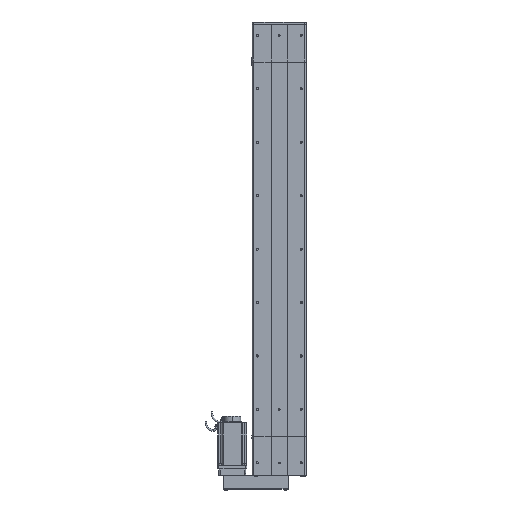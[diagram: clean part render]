
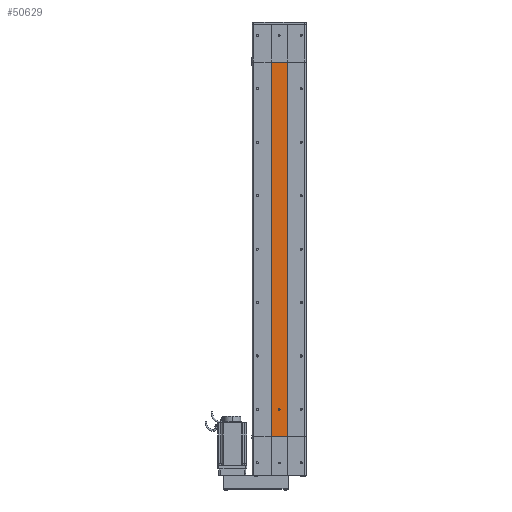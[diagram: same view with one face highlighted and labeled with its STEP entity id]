
A CAD part, front view. The second image highlights one B-rep face of the part: STEP entity #50629.
In plain terms, the highlighted planar face has unit normal (0, -1, 0).
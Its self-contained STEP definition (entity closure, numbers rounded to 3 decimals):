
#26589 = VERTEX_POINT ( 'NONE', #38632 ) ;
#26637 = EDGE_CURVE ( 'NONE', #26589, #26639, #39206, .T. ) ;
#26639 = VERTEX_POINT ( 'NONE', #39200 ) ;
#29665 = DIRECTION ( 'NONE',  ( -1., 0., 0. ) ) ;
#29667 = VECTOR ( 'NONE', #29665, 1000. ) ;
#29668 = CARTESIAN_POINT ( 'NONE',  ( -30., -32.5, 1400. ) ) ;
#29811 = CARTESIAN_POINT ( 'NONE',  ( -30., -32.5, 1400. ) ) ;
#30024 = LINE ( 'NONE', #29668, #29667 ) ;
#30039 = CARTESIAN_POINT ( 'NONE',  ( 30., -32.5, 1400. ) ) ;
#31318 = CARTESIAN_POINT ( 'NONE',  ( -30., -32.5, 0. ) ) ;
#31475 = DIRECTION ( 'NONE',  ( -1., 0., 0. ) ) ;
#31476 = VECTOR ( 'NONE', #31475, 1000. ) ;
#31484 = CARTESIAN_POINT ( 'NONE',  ( -30., -32.5, 0. ) ) ;
#31486 = LINE ( 'NONE', #31484, #31476 ) ;
#31501 = AXIS2_PLACEMENT_3D ( 'NONE', #31573, #31572, #31571 ) ;
#31545 = DIRECTION ( 'NONE',  ( 0., 0., 1. ) ) ;
#31546 = VECTOR ( 'NONE', #31545, 1000. ) ;
#31547 = CARTESIAN_POINT ( 'NONE',  ( 30., -32.5, 0. ) ) ;
#31571 = DIRECTION ( 'NONE',  ( 0., 0., 1. ) ) ;
#31572 = DIRECTION ( 'NONE',  ( 0., 1., 0. ) ) ;
#31573 = CARTESIAN_POINT ( 'NONE',  ( -30., -32.5, 0. ) ) ;
#31596 = FACE_BOUND ( 'NONE', #50609, .T. ) ;
#31598 = VECTOR ( 'NONE', #31698, 1000. ) ;
#31602 = PLANE ( 'NONE',  #31501 ) ;
#31603 = FACE_OUTER_BOUND ( 'NONE', #50561, .T. ) ;
#31623 = LINE ( 'NONE', #31547, #31546 ) ;
#31696 = LINE ( 'NONE', #31699, #31598 ) ;
#31698 = DIRECTION ( 'NONE',  ( 0., 0., 1. ) ) ;
#31699 = CARTESIAN_POINT ( 'NONE',  ( -30., -32.5, 0. ) ) ;
#31840 = CARTESIAN_POINT ( 'NONE',  ( 30., -32.5, 0. ) ) ;
#31851 = CARTESIAN_POINT ( 'NONE',  ( 0., -32.5, 100. ) ) ;
#31852 = AXIS2_PLACEMENT_3D ( 'NONE', #31851, #31856, #31855 ) ;
#31854 = CIRCLE ( 'NONE', #31852, 3. ) ;
#31855 = DIRECTION ( 'NONE',  ( 0., 0., -1. ) ) ;
#31856 = DIRECTION ( 'NONE',  ( 0., -1., 0. ) ) ;
#38632 = CARTESIAN_POINT ( 'NONE',  ( 0., -32.5, 103. ) ) ;
#39198 = DIRECTION ( 'NONE',  ( 0., 0., -1. ) ) ;
#39199 = DIRECTION ( 'NONE',  ( 0., -1., 0. ) ) ;
#39200 = CARTESIAN_POINT ( 'NONE',  ( 0., -32.5, 97. ) ) ;
#39206 = CIRCLE ( 'NONE', #39264, 3. ) ;
#39264 = AXIS2_PLACEMENT_3D ( 'NONE', #39282, #39199, #39198 ) ;
#39282 = CARTESIAN_POINT ( 'NONE',  ( 0., -32.5, 100. ) ) ;
#49430 = VERTEX_POINT ( 'NONE', #29811 ) ;
#49447 = VERTEX_POINT ( 'NONE', #30039 ) ;
#49482 = EDGE_CURVE ( 'NONE', #49447, #49430, #30024, .T. ) ;
#50075 = VERTEX_POINT ( 'NONE', #31318 ) ;
#50192 = EDGE_CURVE ( 'NONE', #50739, #50075, #31486, .T. ) ;
#50370 = EDGE_CURVE ( 'NONE', #50739, #49447, #31623, .T. ) ;
#50371 = ORIENTED_EDGE ( 'NONE', *, *, #50192, .F. ) ;
#50378 = ORIENTED_EDGE ( 'NONE', *, *, #49482, .T. ) ;
#50379 = ORIENTED_EDGE ( 'NONE', *, *, #50370, .T. ) ;
#50385 = ORIENTED_EDGE ( 'NONE', *, *, #50620, .F. ) ;
#50561 = EDGE_LOOP ( 'NONE', ( #50378, #50385, #50371, #50379 ) ) ;
#50608 = ORIENTED_EDGE ( 'NONE', *, *, #50667, .F. ) ;
#50609 = EDGE_LOOP ( 'NONE', ( #50608, #50743 ) ) ;
#50620 = EDGE_CURVE ( 'NONE', #50075, #49430, #31696, .T. ) ;
#50629 = ADVANCED_FACE ( 'NONE', ( #31596, #31603 ), #31602, .F. ) ;
#50667 = EDGE_CURVE ( 'NONE', #26639, #26589, #31854, .T. ) ;
#50739 = VERTEX_POINT ( 'NONE', #31840 ) ;
#50743 = ORIENTED_EDGE ( 'NONE', *, *, #26637, .F. ) ;
